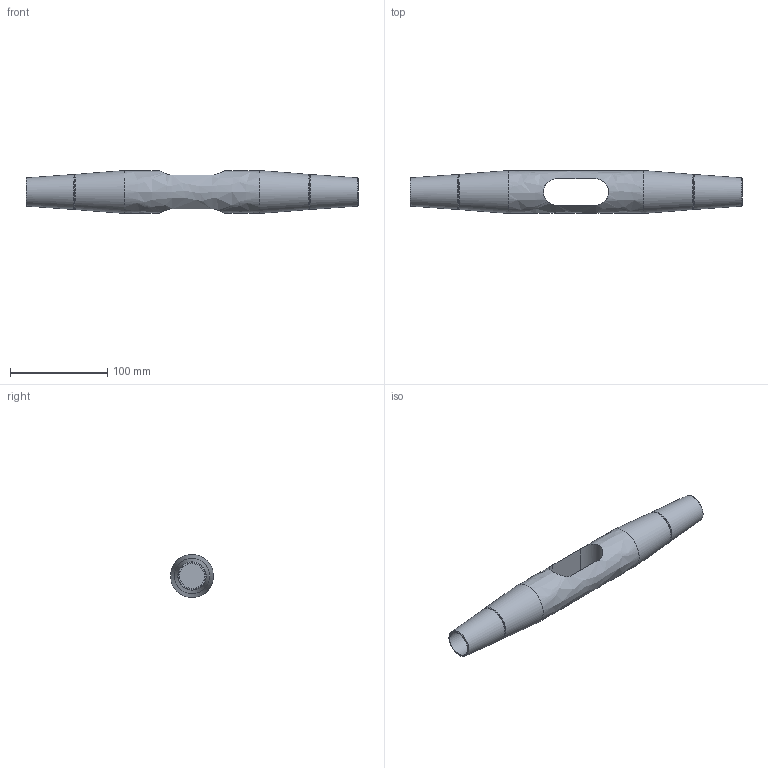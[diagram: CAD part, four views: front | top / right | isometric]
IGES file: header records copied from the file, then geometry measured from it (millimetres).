
Global section: file name: 520-024-KMF; native system: Autodesk Inventor 2016; preprocessor: unknown; author: Administrator; date: 20200702.132009; units: centimetre
Bounding box: 341 x 44 x 44 mm (x, y, z)
Volume: 316212.8 mm3; surface area: 52519.7 mm2
Topology: 1 solids, 1 shells, 23 faces, 55 edges, 38 vertices
Faces by surface type: bspline 23
